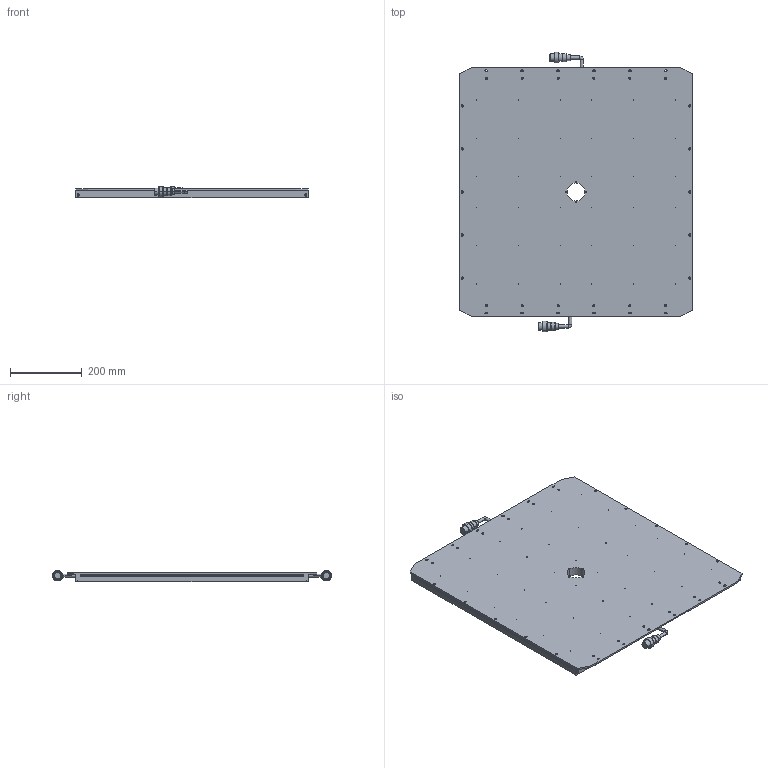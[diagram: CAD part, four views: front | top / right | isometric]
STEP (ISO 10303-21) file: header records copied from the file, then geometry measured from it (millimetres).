
FILE_DESCRIPTION((''),'2;1');
FILE_NAME('LS-LBES-H-620-620-X2','2022-11-04T17:46:02',('LumaSpec Vision'),('LumaSpec Vision'),'CREO PARAMETRIC BY PTC INC, 2020044','CREO PARAMETRIC BY PTC INC, 2020044','');
FILE_SCHEMA(('AUTOMOTIVE_DESIGN { 1 0 10303 214 1 1 1 1 }'));
Products named in the file (1): PRT0001
Bounding box: 650 x 779.25 x 31.12 mm (x, y, z)
Volume: 10696667 mm3; surface area: 1003285.4 mm2
Topology: 3 solids, 72 shells, 2861 faces, 6448 edges, 3815 vertices
Faces by surface type: plane 1651, cylinder 806, cone 262, torus 142
Entity records: 81464 total; most frequent: CARTESIAN_POINT 14496, DIRECTION 13642, ORIENTED_EDGE 12832, EDGE_CURVE 6416, AXIS2_PLACEMENT_3D 4793, VECTOR 4056, LINE 4056, VERTEX_POINT 3815
